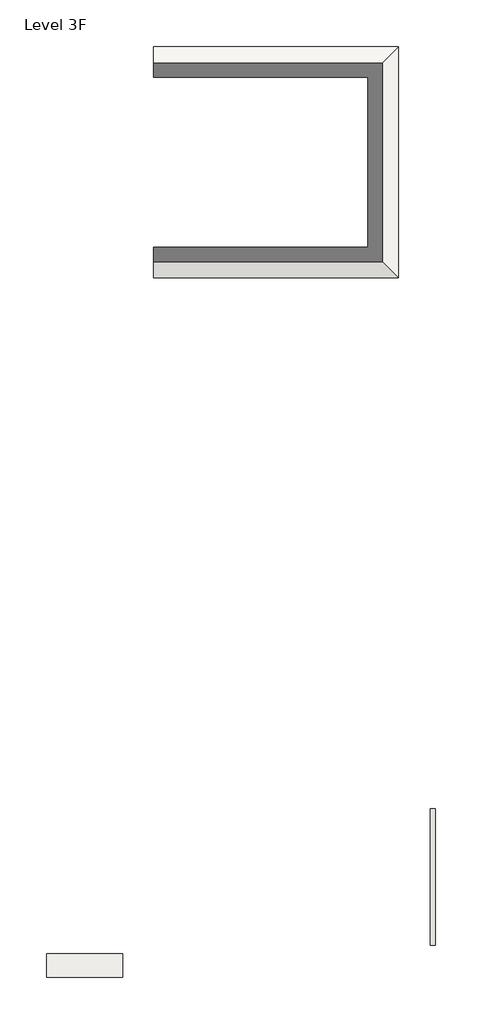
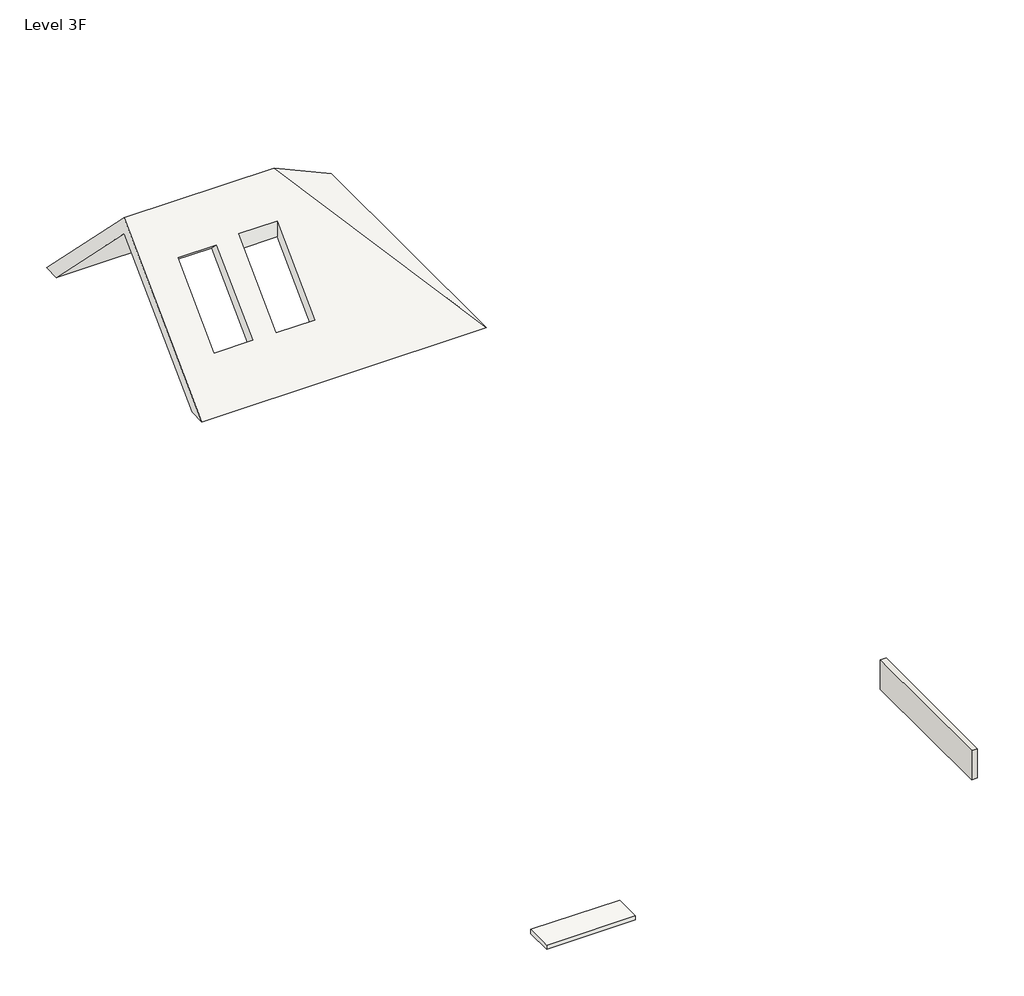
# One storey, incomplete: 1 roof, 1 slab, 1 wall.
"""IFC4 building model written with IfcOpenShell, lengths in millimetres."""

from ifc_helpers import new_model, si_unit, frame, origin, place, context, project, spatial, polyline, outline, extrude, faceted_brep, element, save

model = new_model("IFC4")

# Units and contexts
model_context = context("Model", 3, world=origin())
ifc_project = project(units=[si_unit("LENGTHUNIT", "METRE", prefix="MILLI")], contexts=[model_context])

# Site, building, storey
site = spatial("IfcSite", under=ifc_project)
building = spatial("IfcBuilding", under=site)
storey = spatial("IfcBuildingStorey", under=building, Name="Level 3F", Elevation=5100.0)

# Roof
placement = place(None, origin())
element("IfcRoof", 1, ObjectType="Generic - 400mm", at=placement, inside=storey, context=model_context, shape_type="Brep", body=[
    faceted_brep([(-3260.8701232, 22071.2831375, 5665.6854249), (5799.9046958, 22071.2831375, 5665.6854249), (1823.054908, 18094.4333497, 9642.5352128), (-3260.8701232, 18094.4333497, 9642.5352128), (5799.9046958, 14117.5835618, 5665.6854249), (-3260.8701232, 14117.5835618, 5665.6854249), (-796.4220618, 15114.9524903, 6663.0543535), (-796.4220618, 17236.2728339, 8784.374697), (-2096.8701232, 17236.2728339, 8784.374697), (-2096.8701232, 15114.9524903, 6663.0543535), (1302.9822283, 17026.9932543, 8575.0951175), (2.9822283, 17026.9932543, 8575.0951175), (2.9822283, 14826.9932543, 6375.0951175), (1302.9822283, 14826.9932543, 6375.0951175), (-3260.8701232, 18094.4333497, 10208.2206378), (1823.054908, 18094.4333497, 10208.2206378), (6365.5901208, 22636.9685625, 5665.6854249), (-3260.8701232, 22636.9685625, 5665.6854249), (-3260.8701232, 13551.8981368, 5665.6854249), (6365.5901208, 13551.8981368, 5665.6854249), (-796.4220618, 16953.4301214, 9067.2174095), (-796.4220618, 14832.1097778, 6945.8970659), (-2096.8701232, 14832.1097778, 6945.8970659), (-2096.8701232, 16953.4301214, 9067.2174095), (2.9822283, 17026.9932543, 9140.7805424), (1302.9822283, 17026.9932543, 9140.7805424), (1302.9822283, 14826.9932543, 6940.7805424), (2.9822283, 14826.9932543, 6940.7805424)], [[[0, 1, 2, 3]], [[4, 5, 3, 2], [6, 7, 8, 9], [10, 11, 12, 13]], [[1, 4, 2]], [[14, 15, 16, 17]], [[15, 14, 18, 19], [20, 21, 22, 23], [24, 25, 26, 27]], [[16, 15, 19]], [[1, 0, 17, 16, 19, 18, 5, 4]], [[0, 3, 5, 18, 14, 17]], [[20, 7, 6, 21]], [[21, 6, 9, 22]], [[22, 9, 8, 23]], [[7, 20, 23, 8]], [[10, 25, 24, 11]], [[11, 24, 27, 12]], [[12, 27, 26, 13]], [[25, 10, 13, 26]]]),
])

# Slab
element("IfcSlab", 2, ObjectType="Generic 150mm", at=placement, inside=storey, context=model_context, shape_type="SweptSolid", body=[
    extrude(outline(polyline([(-7473.7239276, -13946.8966791), (-7473.7239276, -13021.8966791), (-4473.7239276, -13021.8966791), (-4473.7239276, -13946.8966791), (-7473.7239276, -13946.8966791)])), frame((0.0, 0.0, 4950.0), z_axis=(0.0, 0.0, 1.0), x_axis=(1.0, 0.0, 0.0)), (0.0, 0.0, 1.0), 150.0),
])

# Wall
element("IfcWall", 3, ObjectType="Generic - 200mm", at=placement, inside=storey, context=model_context, shape_type="SweptSolid", body=[
    extrude(outline(polyline([(7826.2760724, -7321.8966791), (7826.2760724, -12671.8966791), (7626.2760724, -12671.8966791), (7626.2760724, -7321.8966791), (7826.2760724, -7321.8966791)])), frame((0.0, 0.0, 4950.0), z_axis=(0.0, 0.0, 1.0), x_axis=(1.0, 0.0, 0.0)), (0.0, 0.0, 1.0), 1050.0),
])

save(model, "model.ifc")
